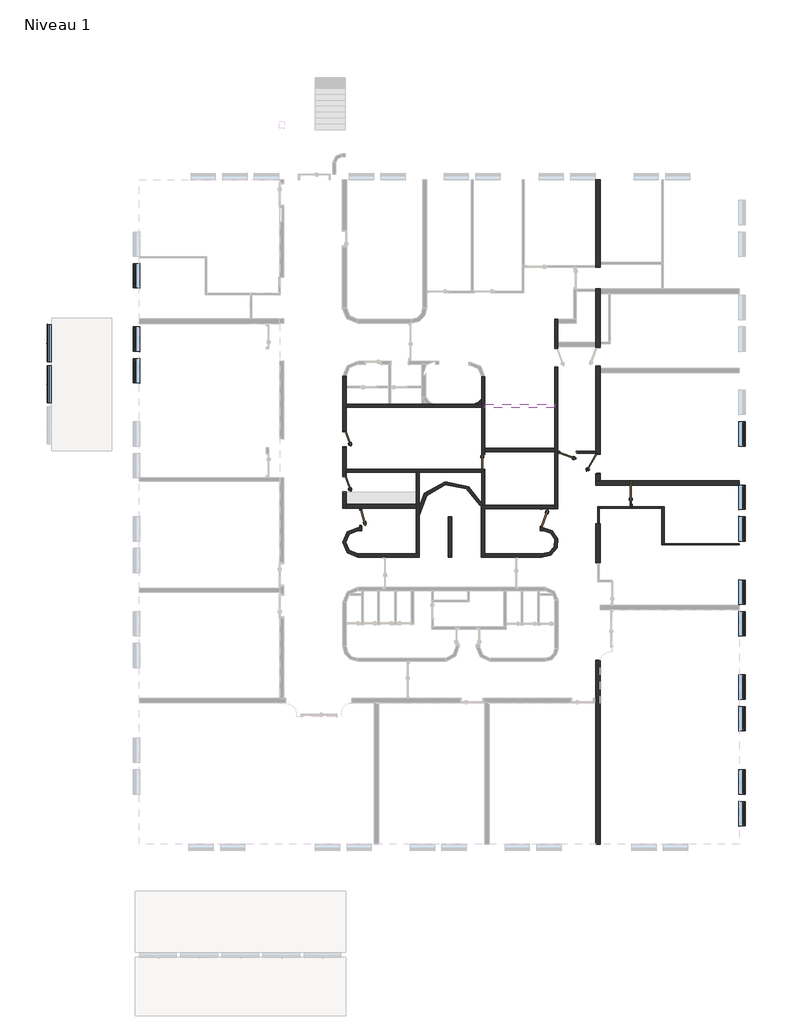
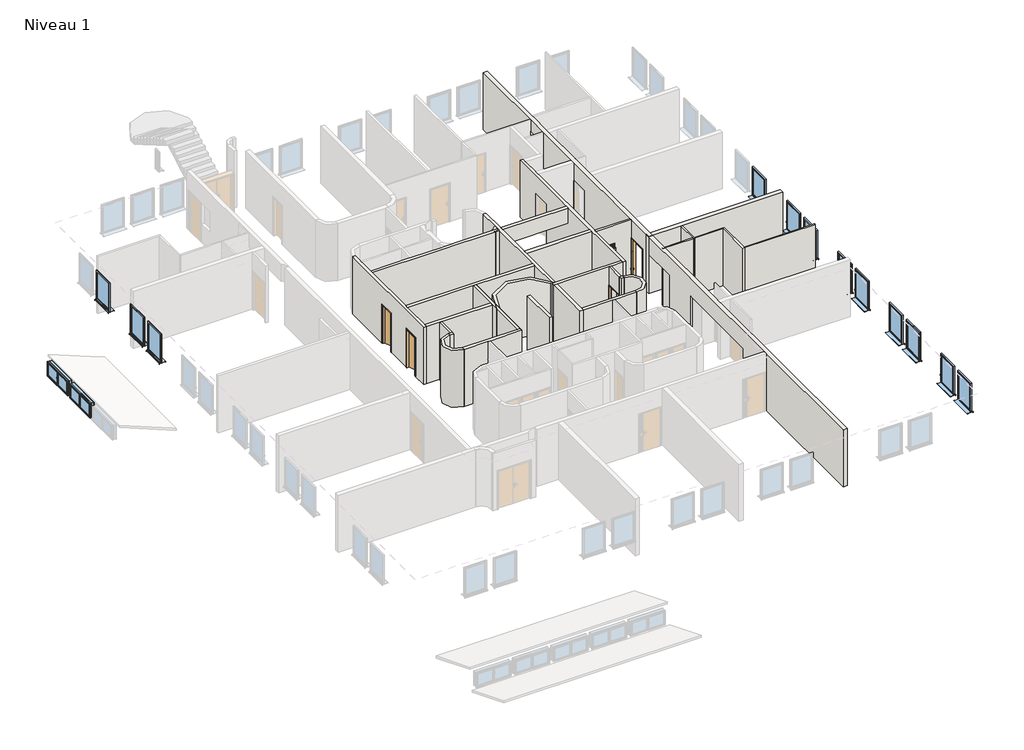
# One storey, part 3 of 5: 31 walls, 14 windows, 8 doors.
"""IFC4 building model written with IfcOpenShell, lengths in millimetres."""

from ifc_helpers import new_model, si_unit, point, frame, frame_2d, origin, place, context, project, spatial, polyline, circle_curve, trimmed, segment, composite_curve, outline, extrude, faceted_brep, transform, mapped, element, save
from ifc_brep_helpers import plane_surface, cylinder_surface, revolved_surface, advanced_brep
from components import door_1f832047, door_f02ad49b, door_72424c43, door_9cb2127b, door_510859a6, door_1_10m_x_2_04m_12239842, window_115_x_155_cm_24c5beae, window_1750_x_75_784b19aa

model = new_model("IFC4")

# Units and contexts
model_context = context("Model", 3, world=origin())
ifc_project = project(units=[si_unit("LENGTHUNIT", "METRE", prefix="MILLI")], contexts=[model_context])

# Site, building, storey
site = spatial("IfcSite", under=ifc_project)
building = spatial("IfcBuilding", under=site)
storey = spatial("IfcBuildingStorey", under=building, Name="Niveau 1", Elevation=4121.8727639)

# Doors
placement = place(None, origin())
door_shape = door_1f832047(model_context)
element("IfcDoor", 1, ObjectType="@_Int. Simple : @_PP (0.73m x 2.04m)", at=placement, inside=storey, context=model_context, shape_type="MappedRepresentation", body=[
    mapped(door_shape, transform((-9288.9891716, -2867.8651398, 4121.8727639), x_axis=(0.0, -1.0, 0.0), y_axis=(1.0, 0.0, 0.0), z_axis=(0.0, 0.0, 1.0))),
])
door_2_shape = door_f02ad49b(model_context)
element("IfcDoor", 2, ObjectType="@_Int. Simple : @_PP (0.93m x 2.04m)", at=placement, inside=storey, context=model_context, shape_type="MappedRepresentation", body=[
    mapped(door_2_shape, transform((-3843.989174, -2873.4320393, 4121.8727639), x_axis=(0.0, 1.0, 0.0), y_axis=(-1.0, 0.0, 0.0), z_axis=(0.0, 0.0, 1.0))),
])
door_3_shape = door_72424c43(model_context)
element("IfcDoor", 3, ObjectType="@_Int. Simple : @_PP (0.73m x 2.04m)", at=placement, inside=storey, context=model_context, shape_type="MappedRepresentation", body=[
    mapped(door_3_shape, transform((-15868.9891671, -1706.6151396, 4121.8727639), x_axis=(1.9033581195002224e-10, 1.0, 0.0), y_axis=(-1.0, 1.9033581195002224e-10, 0.0), z_axis=(0.0, 0.0, 1.0))),
])
element("IfcDoor", 4, ObjectType="@_Int. Simple : @_PP (0.73m x 2.04m)", at=placement, inside=storey, context=model_context, shape_type="MappedRepresentation", body=[
    mapped(door_3_shape, transform((-15868.9891675, -3844.1151398, 4121.8727639), x_axis=(1.9033581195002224e-10, 1.0, 0.0), y_axis=(-1.0, 1.9033581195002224e-10, 0.0), z_axis=(0.0, 0.0, 1.0))),
])
door_4_shape = door_9cb2127b(model_context)
element("IfcDoor", 5, ObjectType="@_Int. Simple : @_PP (0.73m x 2.04m)", at=placement, inside=storey, context=model_context, shape_type="MappedRepresentation", body=[
    mapped(door_4_shape, transform((-15097.3676319, -5434.1151465, 4121.8727639), x_axis=(-1.2619037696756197e-08, 1.0, 0.0), y_axis=(-1.0, -1.2619037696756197e-08, 0.0), z_axis=(0.0, 0.0, 1.0))),
])
door_5_shape = door_510859a6(model_context)
element("IfcDoor", 6, ObjectType="@_Int. Simple : @_PP (0.83m x 2.04m)", at=placement, inside=storey, context=model_context, shape_type="MappedRepresentation", body=[
    mapped(door_5_shape, transform((-5302.5317317, -2358.4320393, 4121.8727639), x_axis=(-1.0, 0.0, 0.0), y_axis=(0.0, -1.0, 0.0), z_axis=(0.0, 0.0, 1.0))),
])
element("IfcDoor", 7, ObjectType="@_Int. Simple : @_PP (0.83m x 2.04m)", at=placement, inside=storey, context=model_context, shape_type="MappedRepresentation", body=[
    mapped(door_5_shape, transform((-6540.6107137, -5506.984535, 4121.8727639), x_axis=(9.914124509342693e-09, -1.0, 0.0), y_axis=(1.0, 9.914124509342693e-09, 0.0), z_axis=(0.0, 0.0, 1.0))),
])
door_1_10m_x_2_04m_shape = door_1_10m_x_2_04m_12239842(model_context)
element("IfcDoor", 8, ObjectType="Tierce  160 : 1.10m x 2.04m", at=placement, inside=storey, context=model_context, shape_type="MappedRepresentation", body=[
    mapped(door_1_10m_x_2_04m_shape, transform((-2275.3941617, -4323.7494325, 4121.8727639), x_axis=(0.0, -1.0, 0.0), y_axis=(1.0, 0.0, 0.0), z_axis=(0.0, 0.0, 1.0))),
])

# Walls
element("IfcWall", 9, ObjectType="@_Générique - Int. 180 mm", at=placement, inside=storey, context=model_context, shape_type="SweptSolid", body=[
    extrude(outline(polyline([(-9213.9891716, -2159.1151399), (-5897.6697023, -2159.1151398), (-5897.6697023, -2339.1151398), (-9213.9891716, -2339.1151399), (-9213.9891716, -2159.1151399)])), frame((0.0, 0.0, 5063.3082742), z_axis=(0.0, 0.0, 1.0), x_axis=(1.0, 0.0, 0.0)), (0.0, 0.0, 1.0), 2104.0),
])
element("IfcWall", 10, ObjectType="@_Générique - Int. 150 mm", at=placement, inside=storey, context=model_context, shape_type="Brep", body=[
    faceted_brep([(-15793.9891674, -3309.1151375, 7167.3082742), (-15793.9891674, -3309.1151375, 4121.8727639), (-12472.7391731, -3309.1151375, 4121.8727639), (-12322.7391731, -3309.1151375, 4121.8727639), (-9363.9891716, -3309.1151375, 4121.8727639), (-9363.9891716, -3309.1151375, 7167.3082742), (-12322.7391731, -3309.1151375, 7167.3082742), (-12472.7391731, -3309.1151375, 7167.3082742), (-9213.9891683, -3159.1151375, 4121.8727639), (-15793.9891674, -3159.1151375, 4121.8727639), (-15793.9891674, -3159.1151375, 7167.3082742), (-9363.9891716, -3159.1151375, 7167.3082742), (-9363.9891716, -3159.1151375, 6196.8727639), (-9213.9891683, -3159.1151375, 6196.8727639), (-9213.9891683, -3232.8651398, 4121.8727639), (-9363.9891716, -3232.8651398, 4121.8727639), (-9213.9891683, -3232.8651398, 6196.8727639), (-9363.9891716, -3232.8651398, 6196.8727639)], [[[0, 1, 2, 3, 4, 5, 6, 7]], [[8, 9, 10, 11, 12, 13]], [[9, 8, 14, 15, 4, 3, 2, 1]], [[8, 13, 16, 14]], [[1, 0, 10, 9]], [[10, 0, 7, 6, 5, 11]], [[15, 17, 12, 11, 5, 4]], [[17, 15, 14, 16]], [[17, 16, 13, 12]]]),
])
element("IfcWall", 11, ObjectType="@_Générique - Int. 180 mm", at=placement, inside=storey, context=model_context, shape_type="SweptSolid", body=[
    extrude(outline(polyline([(-15793.9891677, -4829.1151395), (-12472.7391731, -4829.1151395), (-12472.7391731, -5009.1151395), (-15793.9891677, -5009.1151395), (-15793.9891677, -4829.1151395)])), frame((0.0, 0.0, 4121.8727639), z_axis=(0.0, 0.0, 1.0), x_axis=(1.0, 0.0, 0.0)), (0.0, 0.0, 1.0), 3045.4355104),
])
element("IfcWall", 12, ObjectType="@_Générique - Int. 100 mm", at=placement, inside=storey, context=model_context, shape_type="Brep", body=[
    faceted_brep([(-15147.3676372, -5009.1151395, 7167.3082742), (-15147.3676372, -5009.1151395, 4121.8727639), (-15147.3676365, -5069.1151471, 4121.8727639), (-15147.3676365, -5069.1151471, 6196.8727639), (-15147.3676264, -5869.1151471, 6196.8727639), (-15147.3676264, -5869.1151471, 4121.8727639), (-15147.3676256, -5929.1151391, 4121.8727639), (-15147.3676256, -5929.1151391, 7167.3082742), (-15047.3676372, -5009.1151395, 4121.8727639), (-15047.3676372, -5009.1151395, 7167.3082742), (-15047.3676256, -5929.1151391, 7167.3082742), (-15047.3676256, -5929.1151391, 4121.8727639), (-15047.3676264, -5869.1151458, 4121.8727639), (-15047.3676264, -5869.1151458, 6196.8727639), (-15047.3676365, -5069.1151458, 6196.8727639), (-15047.3676365, -5069.1151458, 4121.8727639)], [[[0, 1, 2, 3, 4, 5, 6, 7]], [[8, 9, 10, 11, 12, 13, 14, 15]], [[1, 8, 15, 2]], [[11, 6, 5, 12]], [[1, 0, 9, 8]], [[0, 7, 10, 9]], [[7, 6, 11, 10]], [[14, 3, 2, 15]], [[3, 14, 13, 4]], [[4, 13, 12, 5]]]),
])
element("IfcWall", 13, ObjectType="@_Générique - Int. 100 mm", at=placement, inside=storey, context=model_context, shape_type="Brep", body=[
    faceted_brep([(-6490.6107095, -5934.1151397, 7167.3082742), (-6490.6107095, -5934.1151397, 4121.8727639), (-6490.6107096, -5921.9845345, 4121.8727639), (-6490.6107096, -5921.9845345, 6196.8727639), (-6490.6107184, -5034.1151401, 6196.8727639), (-6490.6107184, -5034.1151401, 7167.3082742), (-6590.6107095, -5934.1151397, 4121.8727639), (-6590.6107095, -5934.1151397, 7167.3082742), (-6590.6107184, -5034.1151401, 7167.3082742), (-6590.6107184, -5034.1151401, 6196.8727639), (-6590.6107096, -5921.9845355, 6196.8727639), (-6590.6107096, -5921.9845355, 4121.8727639)], [[[0, 1, 2, 3, 4, 5]], [[6, 7, 8, 9, 10, 11]], [[1, 6, 11, 2]], [[8, 5, 4, 9]], [[1, 0, 7, 6]], [[0, 5, 8, 7]], [[3, 10, 9, 4]], [[10, 3, 2, 11]]]),
])
element("IfcWall", 14, ObjectType="@_Générique - Int. 150 mm", at=placement, inside=storey, context=model_context, shape_type="SweptSolid", body=[
    extrude(outline(polyline([(-10943.9891704, -7329.1151394), (-10943.9891704, -5429.1151397), (-10793.9891704, -5429.1151397), (-10793.9891704, -7329.1151394), (-10943.9891704, -7329.1151394)])), frame((0.0, 0.0, 3871.8727639), z_axis=(0.0, 0.0, 1.0), x_axis=(1.0, 0.0, 0.0)), (0.0, 0.0, 1.0), 3495.4355104),
])
element("IfcWall", 15, ObjectType="@_Générique - Int. 180 mm", at=placement, inside=storey, context=model_context, shape_type="SweptSolid", body=[
    extrude(outline(polyline([(-9213.9891716, -77.7877599), (-5897.6697023, -77.7877599), (-5897.6697023, -257.7877599), (-9213.9891716, -257.7877599), (-9213.9891716, -77.7877599)])), frame((0.0, 0.0, 6355.3082742), z_axis=(0.0, 0.0, 1.0), x_axis=(1.0, 0.0, 0.0)), (0.0, 0.0, 1.0), 812.0),
])
element("IfcWall", 16, ObjectType="@_Générique - Int. 100 mm", at=placement, inside=storey, context=model_context, shape_type="Brep", body=[
    faceted_brep([(-815.3941617, -4954.1151408, 4121.8727639), (-815.3941617, -5024.1151408, 4121.8727639), (-815.3941617, -6756.5949277, 4121.8727639), (-815.3941617, -6756.5949277, 7167.3082742), (-815.3941617, -5024.1151408, 7167.3082742), (-815.3941617, -4954.1151408, 7167.3082742), (-715.3941617, -4954.1151408, 4121.8727639), (-715.3941617, -4954.1151408, 7167.3082742), (-715.3941617, -6686.5949277, 7167.3082742), (-715.3941617, -6756.5949277, 7167.3082742), (-715.3941617, -6756.5949277, 4121.8727639), (-715.3941617, -6686.5949277, 4121.8727639)], [[[0, 1, 2, 3, 4, 5]], [[6, 7, 8, 9, 10, 11]], [[2, 1, 0, 6, 11, 10]], [[5, 4, 3, 9, 8, 7]], [[0, 5, 7, 6]], [[3, 2, 10, 9]]]),
])
element("IfcWall", 17, ObjectType="@_Générique - Int. 70 mm", at=placement, inside=storey, context=model_context, shape_type="Brep", body=[
    faceted_brep([(-2310.3941617, -5024.1151408, 7167.3082742), (-2310.3941617, -3920.6566666, 7167.3082742), (-2310.3941617, -3920.6566666, 6196.8727639), (-2310.3941617, -4883.7494325, 6196.8727639), (-2310.3941617, -4883.7494325, 4121.8727639), (-2310.3941617, -5024.1151408, 4121.8727639), (-2240.3941617, -3920.6566666, 7167.3082742), (-2240.3941617, -4954.1151408, 7167.3082742), (-2240.3941617, -5024.1151408, 7167.3082742), (-2240.3941617, -5024.1151408, 4121.8727639), (-2240.3941617, -4954.1151408, 4121.8727639), (-2240.3941617, -4883.7494325, 4121.8727639), (-2240.3941617, -4883.7494325, 6196.8727639), (-2240.3941617, -3920.6566666, 6196.8727639)], [[[0, 1, 2, 3, 4, 5]], [[6, 7, 8, 9, 10, 11, 12, 13]], [[9, 5, 4, 11, 10]], [[1, 0, 8, 7, 6]], [[1, 6, 13, 2]], [[3, 12, 11, 4]], [[12, 3, 2, 13]], [[0, 5, 9, 8]]]),
])
element("IfcWall", 18, ObjectType="@_Générique - Int. 70 mm", at=placement, inside=storey, context=model_context, shape_type="SweptSolid", body=[
    extrude(outline(polyline([(2847.4682683, -6756.5949277), (-715.3941617, -6756.5949277), (-715.3941617, -6686.5949277), (2847.4682683, -6686.5949277), (2847.4682683, -6756.5949277)])), frame((0.0, 0.0, 4121.8727639), z_axis=(0.0, 0.0, 1.0), x_axis=(1.0, 0.0, 0.0)), (0.0, 0.0, 1.0), 3045.4355104),
])
element("IfcWall", 19, ObjectType="@_Générique - Int. 180 mm", at=placement, inside=storey, context=model_context, shape_type="SweptSolid", body=[
    extrude(outline(polyline([(-9393.9891683, -7329.1151395), (-9393.9891683, -5034.1151401), (-9213.9891683, -5034.1151401), (-9213.9891683, -7329.1151395), (-9393.9891683, -7329.1151395)])), frame((0.0, 0.0, 4121.8727639), z_axis=(0.0, 0.0, 1.0), x_axis=(1.0, 0.0, 0.0)), (0.0, 0.0, 1.0), 3045.4355104),
])
element("IfcWall", 20, ObjectType="@_Générique - Int. 100 mm", at=placement, inside=storey, context=model_context, shape_type="Brep", body=[
    faceted_brep([(-5747.6697023, -2308.4320393, 7167.3082742), (-3943.989174, -2308.4320393, 7167.3082742), (-3943.989174, -2308.4320393, 4121.8727639), (-4817.5317317, -2308.4320393, 4121.8727639), (-4817.5317317, -2308.4320393, 6196.8727639), (-5717.5317317, -2308.4320393, 6196.8727639), (-5717.5317317, -2308.4320393, 4121.8727639), (-5747.6697023, -2308.4320393, 4121.8727639), (-3943.989174, -2408.4320393, 7167.3082742), (-5747.6697023, -2408.4320393, 7167.3082742), (-5747.6697023, -2408.4320393, 4121.8727639), (-5717.5317317, -2408.4320393, 4121.8727639), (-5717.5317317, -2408.4320393, 6196.8727639), (-4817.5317317, -2408.4320393, 6196.8727639), (-4817.5317317, -2408.4320393, 4121.8727639), (-3943.989174, -2408.4320393, 4121.8727639), (-3943.989174, -2408.4320393, 6196.8727639)], [[[0, 1, 2, 3, 4, 5, 6, 7]], [[8, 9, 10, 11, 12, 13, 14, 15, 16]], [[2, 15, 14, 3]], [[10, 7, 6, 11]], [[1, 0, 9, 8]], [[2, 1, 8, 16, 15]], [[0, 7, 10, 9]], [[5, 12, 11, 6]], [[12, 5, 4, 13]], [[13, 4, 3, 14]]]),
])
element("IfcWall", 21, ObjectType="@_Générique - Int. 70 mm", at=placement, inside=storey, context=model_context, shape_type="Brep", body=[
    faceted_brep([(-2240.3941617, -5024.1151408, 4121.8727639), (-815.3941617, -5024.1151408, 4121.8727639), (-815.3941617, -5024.1151408, 6721.8727639), (-815.3941617, -5024.1151408, 6771.8727639), (-815.3941617, -5024.1151408, 7167.3082742), (-2240.3941617, -5024.1151408, 7167.3082742), (-2240.3941617, -5024.1151408, 6771.8727639), (-2240.3941617, -5024.1151408, 6721.8727639), (-2240.3941617, -4954.1151408, 4121.8727639), (-2240.3941617, -4954.1151408, 6721.8727639), (-2240.3941617, -4954.1151408, 6771.8727639), (-2240.3941617, -4954.1151408, 7167.3082742), (-815.3941617, -4954.1151408, 7167.3082742), (-815.3941617, -4954.1151408, 6771.8727639), (-815.3941617, -4954.1151408, 6721.8727639), (-815.3941617, -4954.1151408, 4121.8727639)], [[[0, 1, 2, 3, 4, 5, 6, 7]], [[8, 9, 10, 11, 12, 13, 14, 15]], [[1, 0, 8, 15]], [[5, 4, 12, 11]], [[4, 3, 2, 1, 15, 14, 13, 12]], [[0, 7, 6, 5, 11, 10, 9, 8]]]),
])
element("IfcWall", 22, ObjectType="Ext. Voile BA 150", at=placement, inside=storey, context=model_context, shape_type="Brep", body=[
    faceted_brep([(-5897.6697023, -5034.1151401, 4121.8727639), (-5897.6697023, -5034.1151401, 7167.3082742), (-5897.6697023, -4884.1151401, 7167.3082742), (-5897.6697023, -257.7877599, 7167.3082742), (-5897.6697023, -77.7877599, 7167.3082742), (-5897.6697023, 3950.8848626, 7167.3082742), (-5897.6697023, 3950.8848626, 4121.8727639), (-5897.6697023, 2564.6432161, 4121.8727639), (-5897.6697023, 2564.6432161, 6196.8727639), (-5897.6697023, 1664.6432161, 6196.8727639), (-5897.6697023, 1664.6432161, 4121.8727639), (-5897.6697023, -4884.1151401, 4121.8727639), (-5747.6697023, -5034.1151401, 7167.3082742), (-5747.6697023, -5034.1151401, 4121.8727639), (-5747.6697023, -2408.4320393, 4121.8727639), (-5747.6697023, -2308.4320393, 4121.8727639), (-5747.6697023, 1664.6432161, 4121.8727639), (-5747.6697023, 1664.6432161, 6196.8727639), (-5747.6697023, 2564.6432161, 6196.8727639), (-5747.6697023, 2564.6432161, 4121.8727639), (-5747.6697023, 2639.6432161, 4121.8727639), (-5747.6697023, 2859.6432161, 4121.8727639), (-5747.6697023, 3750.8848626, 4121.8727639), (-5747.6697023, 3950.8848626, 4121.8727639), (-5747.6697023, 3950.8848626, 7167.3082742), (-5747.6697023, 3750.8848626, 7167.3082742), (-5747.6697023, 2859.6432161, 7167.3082742), (-5747.6697023, 2639.6432161, 7167.3082742), (-5747.6697023, -2308.4320393, 7167.3082742), (-5747.6697023, -2408.4320393, 7167.3082742)], [[[0, 1, 2, 3, 4, 5, 6, 7, 8, 9, 10, 11]], [[12, 13, 14, 15, 16, 17, 18, 19, 20, 21, 22, 23, 24, 25, 26, 27, 28, 29]], [[13, 0, 11, 10, 16, 15, 14]], [[6, 23, 22, 21, 20, 19, 7]], [[1, 0, 13, 12]], [[5, 4, 3, 2, 1, 12, 29, 28, 27, 26, 25, 24]], [[6, 5, 24, 23]], [[18, 8, 7, 19]], [[8, 18, 17, 9]], [[9, 17, 16, 10]]]),
])
element("IfcWall", 23, ObjectType="Ext. Voile BA 150", at=placement, inside=storey, context=model_context, shape_type="Brep", body=[
    faceted_brep([(-12322.739173, -7179.1151393, 4121.8727639), (-12472.739173, -7179.1151393, 4121.8727639), (-15248.989173, -7179.1151391, 4121.8727639), (-15248.989173, -7179.1151391, 7167.3082742), (-12472.739173, -7179.1151393, 7167.3082742), (-12323.9891733, -7179.1151393, 7167.3082742), (-12322.739173, -7179.1151393, 7167.3082742), (-12322.739173, -7329.1151393, 4121.8727639), (-12322.739173, -7329.1151393, 7167.3082742), (-12323.9891733, -7329.1151393, 7167.3082742), (-13933.9891737, -7329.1151392, 7167.3082742), (-14033.9891737, -7329.1151392, 7167.3082742), (-14048.9891737, -7329.1151392, 7167.3082742), (-15248.989173, -7329.1151391, 7167.3082742), (-15248.989173, -7329.1151391, 4121.8727639), (-14033.9891737, -7329.1151392, 4121.8727639), (-13933.9891737, -7329.1151392, 4121.8727639)], [[[0, 1, 2, 3, 4, 5, 6]], [[7, 8, 9, 10, 11, 12, 13, 14, 15, 16]], [[2, 1, 0, 7, 16, 15, 14]], [[3, 2, 14, 13]], [[0, 6, 8, 7]], [[6, 5, 9, 8]], [[5, 4, 3, 13, 12, 11, 10, 9]]]),
])
element("IfcWall", 24, ObjectType="Ext. Voile BA 150", at=placement, inside=storey, context=model_context, shape_type="Brep", body=[
    faceted_brep([(-12472.7391731, -3309.1151375, 4121.8727639), (-12472.739173, -7179.1151393, 4121.8727639), (-12472.739173, -7179.1151393, 7167.3082742), (-12472.7391731, -3309.1151375, 7167.3082742), (-12322.7391731, -3309.1151375, 4121.8727639), (-12322.7391731, -3309.1151375, 7167.3082742), (-12322.739173, -7179.1151393, 7167.3082742), (-12322.739173, -7179.1151393, 4121.8727639), (-12323.9891733, -7179.1151393, 7167.3082742), (-12323.9891733, -3309.1151375, 7167.3082742), (-12323.9891733, -5373.7802048, 7167.3082742)], [[[0, 1, 2, 3]], [[4, 5, 6, 7]], [[1, 0, 4, 7]], [[2, 1, 7, 6, 8]], [[0, 3, 9, 5, 4]], [[8, 6, 5, 9, 10]], [[3, 2, 8, 10, 9]]]),
])
element("IfcWall", 25, ObjectType="Ext. Voile BA 150", at=placement, inside=storey, context=model_context, shape_type="Brep", body=[
    faceted_brep([(-9363.9891716, -4884.1151401, 4121.8727639), (-9363.9891716, -4884.1151401, 7167.3082742), (-9363.9891716, -3309.1151375, 7167.3082742), (-9363.9891716, -3159.1151375, 7167.3082742), (-9363.9891716, -234.1151402, 7167.3082742), (-9363.9891716, -124.6992607, 7167.3082742), (-9363.9891716, -84.1151402, 7167.3082742), (-9363.9891716, 183.2573977, 7167.3082742), (-9363.9891716, 1212.2122451, 7167.3082742), (-9363.9891716, 1212.2122451, 4121.8727639), (-9363.9891716, 183.2573977, 4121.8727639), (-9363.9891716, -84.1151402, 4121.8727639), (-9363.9891716, -124.6992607, 4121.8727639), (-9363.9891716, -234.1151402, 4121.8727639), (-9363.9891716, -2432.8651398, 4121.8727639), (-9363.9891716, -2432.8651398, 6196.8727639), (-9363.9891716, -3159.1151375, 6196.8727639), (-9363.9891716, -3232.8651398, 6196.8727639), (-9363.9891716, -3232.8651398, 4121.8727639), (-9363.9891716, -3309.1151375, 4121.8727639), (-9213.9891716, -4884.1151401, 7167.3082742), (-9213.9891716, -4884.1151401, 4121.8727639), (-9213.9891716, -3232.8651398, 4121.8727639), (-9213.9891716, -3232.8651398, 6196.8727639), (-9213.9891716, -2432.8651398, 6196.8727639), (-9213.9891716, -2432.8651398, 4121.8727639), (-9213.9891716, 1212.2122451, 4121.8727639), (-9213.9891716, 1212.2122451, 7167.3082742), (-9213.9891716, -77.7877599, 7167.3082742), (-9213.9891716, -257.7877599, 7167.3082742)], [[[0, 1, 2, 3, 4, 5, 6, 7, 8, 9, 10, 11, 12, 13, 14, 15, 16, 17, 18, 19]], [[20, 21, 22, 23, 24, 25, 26, 27, 28, 29]], [[21, 0, 19, 18, 22]], [[9, 26, 25, 14, 13, 12, 11, 10]], [[1, 0, 21, 20]], [[8, 7, 6, 5, 4, 3, 2, 1, 20, 29, 28, 27]], [[9, 8, 27, 26]], [[17, 23, 22, 18]], [[23, 17, 16, 15, 24]], [[24, 15, 14, 25]]]),
])
element("IfcWall", 26, ObjectType="Ext. Voile BA 150", at=placement, inside=storey, context=model_context, shape_type="Brep", body=[
    faceted_brep([(-9213.9891683, -7329.1151395, 4121.8727639), (-7733.9891738, -7329.1151397, 4121.8727639), (-7633.9891738, -7329.1151397, 4121.8727639), (-6517.5056385, -7329.1151398, 4121.8727639), (-6517.5056385, -7329.1151398, 7167.3082742), (-7633.9891738, -7329.1151397, 7167.3082742), (-7675.9891738, -7329.1151397, 7167.3082742), (-7733.9891738, -7329.1151397, 7167.3082742), (-9213.9891683, -7329.1151395, 7167.3082742), (-9213.9891683, -7329.1151395, 7117.3082742), (-6507.9824161, -7179.1151398, 4121.8727639), (-9213.9891683, -7179.1151395, 4121.8727639), (-9213.9891683, -7179.1151395, 7167.3082742), (-6507.9824161, -7179.1151398, 7167.3082742)], [[[0, 1, 2, 3, 4, 5, 6, 7, 8, 9]], [[10, 11, 12, 13]], [[3, 2, 1, 0, 11, 10]], [[4, 3, 10, 13]], [[8, 12, 11, 0, 9]], [[13, 12, 8, 7, 6, 5, 4]]]),
])
element("IfcWall", 27, ObjectType="Ext. Voile BA 150", at=placement, inside=storey, context=model_context, shape_type="Brep", body=[
    faceted_brep([(-5897.6697023, -4884.1151401, 4121.8727639), (-9286.5659814, -4884.1151401, 4121.8727639), (-9393.9891683, -4884.1151401, 4121.8727639), (-9393.9891683, -4884.1151401, 7167.3082742), (-9286.5659814, -4884.1151401, 7167.3082742), (-5897.6697023, -4884.1151401, 7167.3082742), (-5897.6697023, -5034.1151401, 4121.8727639), (-5897.6697023, -5034.1151401, 7167.3082742), (-6490.6107184, -5034.1151401, 7167.3082742), (-6590.6107184, -5034.1151401, 7167.3082742), (-9393.9891683, -5034.1151401, 7167.3082742), (-9393.9891683, -5034.1151401, 4121.8727639), (-6590.6107184, -5034.1151401, 4121.8727639), (-6590.6107184, -5034.1151401, 6196.8727639), (-6490.6107184, -5034.1151401, 6196.8727639), (-6490.6107184, -5034.1151401, 4121.8727639), (-6490.6107185, -5021.9845345, 4121.8727639), (-6590.6107185, -5021.9845355, 4121.8727639), (-6590.6107185, -5021.9845355, 6196.8727639), (-6490.6107185, -5021.9845345, 6196.8727639)], [[[0, 1, 2, 3, 4, 5]], [[6, 7, 8, 9, 10, 11, 12, 13, 14, 15]], [[2, 1, 0, 6, 15, 16, 17, 12, 11]], [[0, 5, 7, 6]], [[5, 4, 3, 10, 9, 8, 7]], [[17, 18, 13, 12]], [[19, 16, 15, 14]], [[18, 19, 14, 13]], [[18, 17, 16, 19]], [[3, 2, 11, 10]]]),
])
element("IfcWall", 28, ObjectType="Ext. Voile BA 150", at=placement, inside=storey, context=model_context, shape_type="Brep", body=[
    faceted_brep([(-9363.9891716, -84.1151402, 4121.8727639), (-11631.855529, -84.1151399, 4121.8727639), (-12019.2196923, -84.1151399, 4121.8727639), (-12206.8538189, -84.1151398, 4121.8727639), (-13678.5797272, -84.1151397, 4121.8727639), (-13778.5797272, -84.1151397, 4121.8727639), (-15793.9891668, -84.1151394, 4121.8727639), (-15793.9891668, -84.1151394, 7167.3082742), (-13778.5797272, -84.1151397, 7167.3082742), (-13678.5797272, -84.1151397, 7167.3082742), (-12206.8538189, -84.1151398, 7167.3082742), (-12019.2196923, -84.1151399, 7167.3082742), (-11631.855529, -84.1151399, 7167.3082742), (-9363.9891716, -84.1151402, 7167.3082742), (-9363.9891716, -234.1151402, 4121.8727639), (-9363.9891716, -234.1151402, 7167.3082742), (-15793.9891668, -234.1151394, 7167.3082742), (-15793.9891668, -234.1151394, 4121.8727639)], [[[0, 1, 2, 3, 4, 5, 6, 7, 8, 9, 10, 11, 12, 13]], [[14, 15, 16, 17]], [[6, 5, 4, 3, 2, 1, 0, 14, 17]], [[0, 13, 15, 14]], [[7, 6, 17, 16]], [[13, 12, 11, 10, 9, 8, 7, 16, 15]]]),
])
element("IfcWall", 29, ObjectType="Ext. Voile BA 150", at=placement, inside=storey, context=model_context, shape_type="Brep", body=[
    faceted_brep([(-15943.9891665, 1250.9456811, 7167.3082742), (-15943.9891665, 1250.9456811, 4121.8727639), (-15943.989167, -1341.6151396, 4121.8727639), (-15943.989167, -1341.6151396, 6196.8727639), (-15943.9891672, -2141.6151396, 6196.8727639), (-15943.9891672, -2141.6151396, 4121.8727639), (-15943.9891674, -3479.1151398, 4121.8727639), (-15943.9891674, -3479.1151398, 6196.8727639), (-15943.9891676, -4279.1151398, 6196.8727639), (-15943.9891676, -4279.1151398, 4121.8727639), (-15943.9891677, -5009.1151395, 4121.8727639), (-15943.9891677, -5009.1151395, 7167.3082742), (-15793.9891665, 1250.9456811, 4121.8727639), (-15793.9891665, 1250.9456811, 7167.3082742), (-15793.9891668, -84.1151394, 7167.3082742), (-15793.9891668, -234.1151394, 7167.3082742), (-15793.9891674, -3159.1151375, 7167.3082742), (-15793.9891674, -3309.1151375, 7167.3082742), (-15793.9891677, -5009.1151395, 7167.3082742), (-15793.9891677, -5009.1151395, 4121.8727639), (-15793.9891676, -4279.1151398, 4121.8727639), (-15793.9891676, -4279.1151398, 6196.8727639), (-15793.9891674, -3479.1151398, 6196.8727639), (-15793.9891674, -3479.1151398, 4121.8727639), (-15793.9891674, -3309.1151375, 4121.8727639), (-15793.9891674, -3159.1151375, 4121.8727639), (-15793.9891672, -2141.6151396, 4121.8727639), (-15793.9891672, -2141.6151396, 6196.8727639), (-15793.989167, -1341.6151396, 6196.8727639), (-15793.989167, -1341.6151396, 4121.8727639), (-15793.9891668, -234.1151394, 4121.8727639), (-15793.9891668, -84.1151394, 4121.8727639)], [[[0, 1, 2, 3, 4, 5, 6, 7, 8, 9, 10, 11]], [[12, 13, 14, 15, 16, 17, 18, 19, 20, 21, 22, 23, 24, 25, 26, 27, 28, 29, 30, 31]], [[19, 10, 9, 20]], [[1, 12, 31, 30, 29, 2]], [[5, 26, 25, 24, 23, 6]], [[1, 0, 13, 12]], [[11, 10, 19, 18]], [[0, 11, 18, 17, 16, 15, 14, 13]], [[3, 2, 29, 28]], [[4, 3, 28, 27]], [[5, 4, 27, 26]], [[22, 7, 6, 23]], [[7, 22, 21, 8]], [[8, 21, 20, 9]]]),
])
element("IfcWall", 30, ObjectType="Ext. Voile BA 150", at=placement, inside=storey, context=model_context, shape_type="SweptSolid", body=[
    extrude(outline(composite_curve([segment(polyline([(-15248.9891732, -7179.1151388), (-15248.9891732, -7329.1151388)]), True, "CONTINUOUS"), segment(trimmed(circle_curve(frame_2d((-15248.9891729, -6629.1151388)), 700.0), [point((-15248.9891732, -7329.1151388))], [point((-15248.9891726, -5929.1151388))], False, "CARTESIAN"), True, "CONTINUOUS"), segment(polyline([(-15248.9891726, -5929.1151388), (-15248.9891727, -6079.1151388)]), True, "CONTINUOUS"), segment(trimmed(circle_curve(frame_2d((-15248.9891729, -6629.1151388)), 550.0), [point((-15248.9891727, -6079.1151388))], [point((-15248.9891732, -7179.1151388))], True, "CARTESIAN"), True, "CONTINUOUS")], self_intersect=False)), frame((0.0, 0.0, 4121.8727639), z_axis=(0.0, 0.0, 1.0), x_axis=(1.0, 0.0, 0.0)), (0.0, 0.0, 1.0), 3045.4355104),
])
element("IfcWall", 31, ObjectType="Ext. Voile BA 150", at=placement, inside=storey, context=model_context, shape_type="AdvancedBrep", body=[
    advanced_brep(
    [(-9444.4634484, -4884.1151401, 4121.8727639), (-12322.7391726, -5369.1151392, 4121.8727639), (-12472.7391726, -5369.1151392, 4121.8727639), (-9286.5659814, -4884.1151401, 4121.8727639), (-9393.9891683, -4884.1151401, 4121.8727639), (-9444.4634484, -4884.1151401, 7167.3082742), (-12322.7391726, -5369.1151392, 7167.3082742), (-12472.7391726, -5369.1151392, 7167.3082742), (-9286.5659814, -4884.1151401, 7167.3082742), (-9393.9891683, -4884.1151401, 7167.3082742)],
    [
        (0, 1, circle_curve(frame((-10842.7391726, -5369.1151392, 4121.8727639), z_axis=(0.0, 0.0, 1.0), x_axis=(-0.5808729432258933, 0.8139942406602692, 0.0)), 1480.0)),
        (1, 2),
        (2, 3, circle_curve(frame((-10842.7391726, -5369.1151392, 4121.8727639), z_axis=(0.0, 0.0, -1.0), x_axis=(-0.5808729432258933, 0.8139942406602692, 0.0)), 1630.0)),
        (3, 4),
        (4, 0),
        (0, 5),
        (5, 6, circle_curve(frame((-10842.7391726, -5369.1151392, 7167.3082742), z_axis=(0.0, 0.0, 1.0), x_axis=(-0.5808729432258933, 0.8139942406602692, 0.0)), 1480.0)),
        (6, 1),
        (2, 7),
        (7, 8, circle_curve(frame((-10842.7391726, -5369.1151392, 7167.3082742), z_axis=(0.0, 0.0, -1.0), x_axis=(-0.5808729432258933, 0.8139942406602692, 0.0)), 1630.0)),
        (8, 3),
        (6, 7),
        (5, 9),
        (9, 8),
    ],
    [
        plane_surface(frame((-11702.4311286, -4164.4036631, 4121.8727639), z_axis=(0.0, 0.0, -1.0), x_axis=(-0.8139942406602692, -0.5808729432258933, 0.0))),
        revolved_surface(polyline([(-11702.431128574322, -4164.403663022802, 4121.8727639), (-11702.431128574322, -4164.403663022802, 7167.3082742)]), (-10842.7391726, -5369.1151392, 4121.8727639), (0.0, 0.0, -1.0)),
        cylinder_surface(frame((-10842.7391726, -5369.1151392, 4121.8727639), z_axis=(0.0, 0.0, 1.0), x_axis=(-0.5808729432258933, 0.8139942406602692, 0.0)), 1630.0),
        plane_surface(frame((-12472.7391726, -5369.1151392, 7167.3082742), z_axis=(0.0, -1.0, 0.0), x_axis=(0.0, 0.0, -1.0))),
        plane_surface(frame((-25618.9891748, 10570.8848592, 7167.3082742), z_axis=(0.0, 0.0, 1.0), x_axis=(0.0, 1.0, 0.0))),
        plane_surface(frame((-6085.9365045, -4884.1151401, 4121.8727639), z_axis=(0.0, -1.0, 0.0), x_axis=(-1.0, 0.0, 0.0))),
    ],
    [
        (0, [[1, 2, 3, 4, 5]]),
        (1, [[-1, 6, 7, 8]]),
        (2, [[-3, 9, 10, 11]]),
        (3, [[-2, -8, 12, -9]]),
        (4, [[-7, 13, 14, -10, -12]]),
        (5, [[-6, -5, -4, -11, -14, -13]]),
    ],
),
])
element("IfcWall", 32, ObjectType="Ext. Voile BA 150", at=placement, inside=storey, context=model_context, shape_type="Brep", body=[
    faceted_brep([(-6433.9891739, -5934.1151397, 4121.8727639), (-6490.6107095, -5934.1151397, 4121.8727639), (-6590.6107095, -5934.1151397, 4121.8727639), (-6590.6107095, -5934.1151397, 7167.3082742), (-6490.6107095, -5934.1151397, 7167.3082742), (-6433.9891739, -5934.1151397, 7167.3082742), (-6433.9891739, -6084.1151397, 4121.8727639), (-6433.9891739, -6084.1151397, 7167.3082742), (-6590.610708, -6084.1151397, 7167.3082742), (-6590.610708, -6084.1151397, 4121.8727639)], [[[0, 1, 2, 3, 4, 5]], [[6, 7, 8, 9]], [[2, 1, 0, 6, 9]], [[0, 5, 7, 6]], [[3, 2, 9, 8]], [[5, 4, 3, 8, 7]]]),
])
element("IfcWall", 33, ObjectType="Ext. Voile BA 150", at=placement, inside=storey, context=model_context, shape_type="SweptSolid", body=[
    extrude(outline(composite_curve([segment(polyline([(-6433.9891739, -6084.1151397), (-6433.9891739, -5934.1151397)]), True, "CONTINUOUS"), segment(trimmed(circle_curve(frame_2d((-6433.9891738, -6634.1151397)), 700.0), [point((-6433.9891739, -5934.1151397))], [point((-6517.5056385, -7329.1151398))], False, "CARTESIAN"), True, "CONTINUOUS"), segment(polyline([(-6517.5056385, -7329.1151398), (-6507.9824161, -7179.1151398)]), True, "CONTINUOUS"), segment(trimmed(circle_curve(frame_2d((-6433.9891738, -6634.1151397)), 550.0), [point((-6507.9824161, -7179.1151398))], [point((-6433.9891739, -6084.1151397))], True, "CARTESIAN"), True, "CONTINUOUS")], self_intersect=False)), frame((0.0, 0.0, 4121.8727639), z_axis=(0.0, 0.0, 1.0), x_axis=(1.0, 0.0, 0.0)), (0.0, 0.0, 1.0), 3045.4355104),
])
element("IfcWall", 34, ObjectType="Ext. Voile BA 150", at=placement, inside=storey, context=model_context, shape_type="Brep", body=[
    faceted_brep([(-15047.3676256, -5929.1151391, 4121.8727639), (-15147.3676256, -5929.1151391, 4121.8727639), (-15248.9891729, -5929.1151391, 4121.8727639), (-15248.9891729, -5929.1151391, 7167.3082742), (-15147.3676256, -5929.1151391, 7167.3082742), (-15047.3676256, -5929.1151391, 7167.3082742), (-15047.3676237, -6079.1151391, 4121.8727639), (-15047.3676237, -6079.1151391, 7167.3082742), (-15248.9891729, -6079.1151391, 7167.3082742), (-15248.9891729, -6079.1151391, 4121.8727639)], [[[0, 1, 2, 3, 4, 5]], [[6, 7, 8, 9]], [[2, 1, 0, 6, 9]], [[3, 2, 9, 8]], [[5, 4, 3, 8, 7]], [[0, 5, 7, 6]]]),
])
element("IfcWall", 35, ObjectType="Ext. Voile BA 200", at=placement, inside=storey, context=model_context, shape_type="Brep", body=[
    faceted_brep([(-3743.989174, -20956.25307, 4121.8727639), (-3743.989174, -12231.7051111, 4121.8727639), (-3743.989174, -12231.7051111, 6221.8727639), (-3743.989174, -7609.7484991, 6221.8727639), (-3743.989174, -7609.7484991, 4121.8727639), (-3743.989174, -5753.7494324, 4121.8727639), (-3743.989174, -5753.7494324, 6221.8727639), (-3743.989174, -3700.6566666, 6221.8727639), (-3743.989174, -3700.6566666, 4121.8727639), (-3743.989174, -3408.4320393, 4121.8727639), (-3743.989174, -3408.4320393, 6196.8727639), (-3743.989174, -2408.4320393, 6196.8727639), (-3743.989174, -2408.4320393, 4121.8727639), (-3743.989174, 1410.8848592, 4121.8727639), (-3743.989174, 1630.8848592, 4121.8727639), (-3743.989174, 1724.6432161, 4121.8727639), (-3743.989174, 1724.6432161, 6196.8727639), (-3743.989174, 2624.6432161, 6196.8727639), (-3743.989174, 2624.6432161, 4121.8727639), (-3743.989174, 2779.6432161, 4121.8727639), (-3743.989174, 2849.6432161, 4121.8727639), (-3743.989174, 5160.8848592, 4121.8727639), (-3743.989174, 5380.8848592, 4121.8727639), (-3743.989174, 5380.8848592, 6560.2727639), (-3743.989174, 6407.9785501, 6560.2727639), (-3743.989174, 6407.9785501, 4121.8727639), (-3743.989174, 6552.9785501, 4121.8727639), (-3743.989174, 6652.9785501, 4121.8727639), (-3743.989174, 10570.8848592, 4121.8727639), (-3743.989174, 10570.8848592, 7167.3082742), (-3743.989174, 6652.9785501, 7167.3082742), (-3743.989174, 6552.9785501, 7167.3082742), (-3743.989174, 5380.8848592, 7167.3082742), (-3743.989174, 5160.8848592, 7167.3082742), (-3743.989174, 2849.6432161, 7167.3082742), (-3743.989174, 2779.6432161, 7167.3082742), (-3743.989174, 1630.8848592, 7167.3082742), (-3743.989174, 1410.8848592, 7167.3082742), (-3743.989174, -9613.7494319, 7167.3082742), (-3743.989174, -9833.7494319, 7167.3082742), (-3743.989174, -20956.25307, 7167.3082742), (-3943.989174, -12212.7051554, 4121.8727639), (-3943.989174, -14029.1151398, 4121.8727639), (-3943.989174, -14229.1151398, 4121.8727639), (-3943.989174, -20956.25307, 4121.8727639), (-3943.989174, -20956.25307, 7167.3082742), (-3943.989174, -14229.1151398, 7167.3082742), (-3943.989174, -14029.1151398, 7167.3082742), (-3943.989174, -2408.4320393, 7167.3082742), (-3943.989174, -2308.4320393, 7167.3082742), (-3943.989174, 2639.6432161, 7167.3082742), (-3943.989174, 2859.6432161, 7167.3082742), (-3943.989174, 5270.8848592, 7167.3082742), (-3943.989174, 5370.8848592, 7167.3082742), (-3943.989174, 10570.8848592, 7167.3082742), (-3943.989174, 10570.8848592, 4121.8727639), (-3943.989174, 6407.9785501, 4121.8727639), (-3943.989174, 6407.9785501, 6560.2727639), (-3943.989174, 5380.8848592, 6560.2727639), (-3943.989174, 5380.8848592, 4121.8727639), (-3943.989174, 5370.8848592, 4121.8727639), (-3943.989174, 5270.8848592, 4121.8727639), (-3943.989174, 2859.6432161, 4121.8727639), (-3943.989174, 2639.6432161, 4121.8727639), (-3943.989174, 2624.6432161, 4121.8727639), (-3943.989174, 2624.6432161, 6196.8727639), (-3943.989174, 1724.6432161, 6196.8727639), (-3943.989174, 1724.6432161, 4121.8727639), (-3943.989174, -2308.4320393, 4121.8727639), (-3943.989174, -2408.4320393, 4121.8727639), (-3943.989174, -2408.4320393, 6196.8727639), (-3943.989174, -3408.4320393, 6196.8727639), (-3943.989174, -3408.4320393, 4121.8727639), (-3943.989174, -3700.6566666, 4121.8727639), (-3943.989174, -3700.6566666, 6221.8727639), (-3943.989174, -5753.7494324, 6221.8727639), (-3943.989174, -5753.7494324, 4121.8727639), (-3943.989174, -7609.7484991, 4121.8727639), (-3943.989174, -7609.7484991, 6221.8727639), (-3943.989174, -12212.7051554, 6221.8727639), (-3863.9891744, -5753.7494324, 4121.8727639), (-3793.9891744, -5753.7494324, 4121.8727639), (-3793.9891744, -5753.7494324, 6221.8727639), (-3863.9891744, -5753.7494324, 6221.8727639)], [[[0, 1, 2, 3, 4, 5, 6, 7, 8, 9, 10, 11, 12, 13, 14, 15, 16, 17, 18, 19, 20, 21, 22, 23, 24, 25, 26, 27, 28, 29, 30, 31, 32, 33, 34, 35, 36, 37, 38, 39, 40]], [[41, 42, 43, 44, 45, 46, 47, 48, 49, 50, 51, 52, 53, 54, 55, 56, 57, 58, 59, 60, 61, 62, 63, 64, 65, 66, 67, 68, 69, 70, 71, 72, 73, 74, 75, 76, 77, 78, 79]], [[29, 28, 55, 54]], [[0, 40, 45, 44]], [[17, 65, 64, 18]], [[65, 17, 16, 66]], [[66, 16, 15, 67]], [[1, 0, 44, 43, 42, 41]], [[3, 2, 79, 78]], [[4, 3, 78, 77]], [[5, 4, 77, 76, 80, 81]], [[2, 1, 41, 79]], [[12, 11, 70, 69]], [[11, 10, 71, 70]], [[10, 9, 72, 71]], [[7, 6, 82, 83, 75, 74]], [[55, 28, 27, 26, 25, 56]], [[12, 69, 68, 67, 15, 14, 13]], [[72, 9, 8, 73]], [[59, 22, 21, 20, 19, 18, 64, 63, 62, 61, 60]], [[8, 7, 74, 73]], [[6, 5, 81, 80, 76, 75, 83, 82]], [[24, 23, 58, 57]], [[24, 57, 56, 25]], [[40, 39, 38, 37, 36, 35, 34, 33, 32, 31, 30, 29, 54, 53, 52, 51, 50, 49, 48, 47, 46, 45]], [[58, 23, 22, 59]]]),
])
element("IfcWall", 36, ObjectType="Ext. Voile BA 200", at=placement, inside=storey, context=model_context, shape_type="SweptSolid", body=[
    extrude(outline(composite_curve([segment(polyline([(-9547.9093429, -234.1151401), (-9762.5934676, -84.1151401)]), True, "CONTINUOUS"), segment(trimmed(circle_curve(frame_2d((-9818.6417942, 430.2526938)), 517.4124888), [point((-9762.5934676, -84.1151401))], [point((-9363.9891716, 183.2573977))], True, "CARTESIAN"), True, "CONTINUOUS"), segment(polyline([(-9363.9891716, 183.2573977), (-9363.9891716, -124.6992607)]), True, "CONTINUOUS"), segment(trimmed(circle_curve(frame_2d((-9818.6417942, 430.2526938)), 717.4124888), [point((-9363.9891716, -124.6992607))], [point((-9547.9093429, -234.1151401))], False, "CARTESIAN"), True, "CONTINUOUS")], self_intersect=False)), frame((0.0, 0.0, 4121.8727639), z_axis=(0.0, 0.0, 1.0), x_axis=(1.0, 0.0, 0.0)), (0.0, 0.0, 1.0), 3045.4355104),
])
element("IfcWall", 37, ObjectType="Ext. Voile BA 200 Brique", at=placement, inside=storey, context=model_context, shape_type="Brep", body=[
    faceted_brep([(-3948.9891744, -3920.6566666, 7167.3082742), (-3948.9891744, -3920.6566666, 4121.8727639), (-2310.3941617, -3920.6566666, 4121.8727639), (-2310.3941617, -3920.6566666, 6196.8727639), (-2240.3941617, -3920.6566666, 6196.8727639), (-2240.3941617, -3920.6566666, 4121.8727639), (2847.4682683, -3920.6566667, 4121.8727639), (2847.4682683, -3920.6566667, 6721.8727639), (2847.4682683, -3920.6566667, 6771.8727639), (2847.4682683, -3920.6566667, 7167.3082742), (-2240.3941617, -3920.6566666, 7167.3082742), (-2310.3941617, -3920.6566666, 7167.3082742), (2847.4682683, -3700.6566667, 4121.8727639), (-3743.989174, -3700.6566666, 4121.8727639), (-3943.989174, -3700.6566666, 4121.8727639), (-3948.9891744, -3700.6566666, 4121.8727639), (-3948.9891744, -3700.6566666, 7167.3082742), (2847.4682683, -3700.6566667, 7167.3082742), (2847.4682683, -3700.6566667, 6771.8727639), (2847.4682683, -3700.6566667, 6721.8727639), (-2240.3941617, -3763.7494325, 4121.8727639), (-2310.3941617, -3763.7494325, 4121.8727639), (-2310.3941617, -3763.7494325, 6196.8727639), (-2240.3941617, -3763.7494325, 6196.8727639)], [[[0, 1, 2, 3, 4, 5, 6, 7, 8, 9, 10, 11]], [[12, 13, 14, 15, 16, 17, 18, 19]], [[15, 14, 13, 12, 6, 5, 20, 21, 2, 1]], [[1, 0, 16, 15]], [[9, 8, 7, 6, 12, 19, 18, 17]], [[0, 11, 10, 9, 17, 16]], [[21, 22, 3, 2]], [[23, 20, 5, 4]], [[22, 23, 4, 3]], [[22, 21, 20, 23]]]),
])
element("IfcWall", 38, ObjectType="Mur en verre 70", at=placement, inside=storey, context=model_context, shape_type="Brep", body=[
    faceted_brep([(-3863.9891744, -5024.1151408, 4121.8727639), (-3793.9891744, -5024.1151408, 4121.8727639), (-2310.3941617, -5024.1151408, 4121.8727639), (-2310.3941617, -5024.1151408, 7167.3082742), (-3863.9891744, -5024.1151408, 7167.3082742), (-3863.9891744, -5024.1151408, 6221.8727639), (-3863.9891744, -4954.1151408, 4121.8727639), (-3863.9891744, -4954.1151408, 7167.3082742), (-2310.3941617, -4954.1151408, 7167.3082742), (-2310.3941617, -4954.1151408, 4121.8727639)], [[[0, 1, 2, 3, 4, 5]], [[6, 7, 8, 9]], [[2, 1, 0, 6, 9]], [[3, 2, 9, 8]], [[4, 3, 8, 7]], [[0, 5, 4, 7, 6]]]),
])
element("IfcWall", 39, ObjectType="Mur en verre 70", at=placement, inside=storey, context=model_context, shape_type="SweptSolid", body=[
    extrude(outline(polyline([(-3793.9891744, -5024.1151408), (-3793.9891744, -5753.7494324), (-3863.9891744, -5753.7494324), (-3863.9891744, -5024.1151408), (-3793.9891744, -5024.1151408)])), frame((0.0, 0.0, 4121.8727639), z_axis=(0.0, 0.0, 1.0), x_axis=(1.0, 0.0, 0.0)), (0.0, 0.0, 1.0), 2100.0),
])

# Windows
window_115_x_155_cm_shape = window_115_x_155_cm_24c5beae(model_context)
element("IfcWindow", 40, ObjectType="Fenêtre type 1 : 115 x 155 cm", at=placement, inside=storey, context=model_context, shape_type="MappedRepresentation", body=[
    mapped(window_115_x_155_cm_shape, transform((2972.4682683, -1494.822974, 4321.8727639), x_axis=(0.0, -1.0, 0.0), y_axis=(1.0, 0.0, 0.0), z_axis=(0.0, 0.0, 1.0))),
])
element("IfcWindow", 41, ObjectType="Fenêtre type 1 : 115 x 155 cm", at=placement, inside=storey, context=model_context, shape_type="MappedRepresentation", body=[
    mapped(window_115_x_155_cm_shape, transform((2972.4682683, -4494.822974, 4321.8727639), x_axis=(0.0, -1.0, 0.0), y_axis=(1.0, 0.0, 0.0), z_axis=(0.0, 0.0, 1.0))),
])
element("IfcWindow", 42, ObjectType="Fenêtre type 1 : 115 x 155 cm", at=placement, inside=storey, context=model_context, shape_type="MappedRepresentation", body=[
    mapped(window_115_x_155_cm_shape, transform((2972.4682683, -5994.822974, 4321.8727639), x_axis=(0.0, -1.0, 0.0), y_axis=(1.0, 0.0, 0.0), z_axis=(0.0, 0.0, 1.0))),
])
element("IfcWindow", 43, ObjectType="Fenêtre type 1 : 115 x 155 cm", at=placement, inside=storey, context=model_context, shape_type="MappedRepresentation", body=[
    mapped(window_115_x_155_cm_shape, transform((2972.4682683, -8994.822974, 4321.8727639), x_axis=(0.0, -1.0, 0.0), y_axis=(1.0, 0.0, 0.0), z_axis=(0.0, 0.0, 1.0))),
])
element("IfcWindow", 44, ObjectType="Fenêtre type 1 : 115 x 155 cm", at=placement, inside=storey, context=model_context, shape_type="MappedRepresentation", body=[
    mapped(window_115_x_155_cm_shape, transform((2972.4682683, -10494.822974, 4321.8727639), x_axis=(0.0, -1.0, 0.0), y_axis=(1.0, 0.0, 0.0), z_axis=(0.0, 0.0, 1.0))),
])
element("IfcWindow", 45, ObjectType="Fenêtre type 1 : 115 x 155 cm", at=placement, inside=storey, context=model_context, shape_type="MappedRepresentation", body=[
    mapped(window_115_x_155_cm_shape, transform((2972.4682683, -13494.822974, 4321.8727639), x_axis=(0.0, -1.0, 0.0), y_axis=(1.0, 0.0, 0.0), z_axis=(0.0, 0.0, 1.0))),
])
element("IfcWindow", 46, ObjectType="Fenêtre type 1 : 115 x 155 cm", at=placement, inside=storey, context=model_context, shape_type="MappedRepresentation", body=[
    mapped(window_115_x_155_cm_shape, transform((2972.4682683, -14994.822974, 4321.8727639), x_axis=(0.0, -1.0, 0.0), y_axis=(1.0, 0.0, 0.0), z_axis=(0.0, 0.0, 1.0))),
])
element("IfcWindow", 47, ObjectType="Fenêtre type 1 : 115 x 155 cm", at=placement, inside=storey, context=model_context, shape_type="MappedRepresentation", body=[
    mapped(window_115_x_155_cm_shape, transform((2972.4682683, -17994.822974, 4321.8727639), x_axis=(0.0, -1.0, 0.0), y_axis=(1.0, 0.0, 0.0), z_axis=(0.0, 0.0, 1.0))),
])
element("IfcWindow", 48, ObjectType="Fenêtre type 1 : 115 x 155 cm", at=placement, inside=storey, context=model_context, shape_type="MappedRepresentation", body=[
    mapped(window_115_x_155_cm_shape, transform((2972.4682683, -19494.822974, 4321.8727639), x_axis=(0.0, -1.0, 0.0), y_axis=(1.0, 0.0, 0.0), z_axis=(0.0, 0.0, 1.0))),
])
element("IfcWindow", 49, ObjectType="Fenêtre type 1 : 115 x 155 cm", at=placement, inside=storey, context=model_context, shape_type="MappedRepresentation", body=[
    mapped(window_115_x_155_cm_shape, transform((-25718.9891731, 1505.177026, 4321.8727639), x_axis=(0.0, 1.0, 0.0), y_axis=(-1.0, 0.0, 0.0), z_axis=(0.0, 0.0, 1.0))),
])
element("IfcWindow", 50, ObjectType="Fenêtre type 1 : 115 x 155 cm", at=placement, inside=storey, context=model_context, shape_type="MappedRepresentation", body=[
    mapped(window_115_x_155_cm_shape, transform((-25718.9891731, 3005.177026, 4321.8727639), x_axis=(0.0, 1.0, 0.0), y_axis=(-1.0, 0.0, 0.0), z_axis=(0.0, 0.0, 1.0))),
])
element("IfcWindow", 51, ObjectType="Fenêtre type 1 : 115 x 155 cm", at=placement, inside=storey, context=model_context, shape_type="MappedRepresentation", body=[
    mapped(window_115_x_155_cm_shape, transform((-25718.9891731, 6005.177026, 4321.8727639), x_axis=(0.0, 1.0, 0.0), y_axis=(-1.0, 0.0, 0.0), z_axis=(0.0, 0.0, 1.0))),
])
window_1750_x_75_shape = window_1750_x_75_784b19aa(model_context)
element("IfcWindow", 52, ObjectType="Fenêtre 2 Vantaux : 1750 x 75", at=placement, inside=storey, context=model_context, shape_type="MappedRepresentation", body=[
    mapped(window_1750_x_75_shape, transform((-29843.5797272, 2817.177026, 3421.8727639), x_axis=(0.0, -1.0, 0.0), y_axis=(1.0, 0.0, 0.0), z_axis=(0.0, 0.0, 1.0))),
])
element("IfcWindow", 53, ObjectType="Fenêtre 2 Vantaux : 1750 x 75", at=placement, inside=storey, context=model_context, shape_type="MappedRepresentation", body=[
    mapped(window_1750_x_75_shape, transform((-29843.5797272, 867.177026, 3421.8727639), x_axis=(0.0, -1.0, 0.0), y_axis=(1.0, 0.0, 0.0), z_axis=(0.0, 0.0, 1.0))),
])

save(model, "model.ifc")
